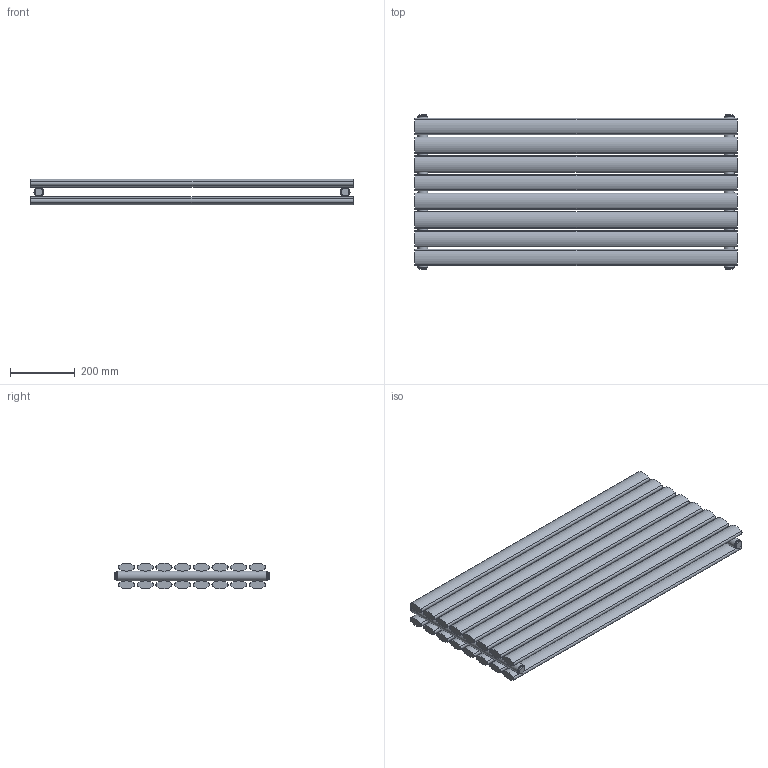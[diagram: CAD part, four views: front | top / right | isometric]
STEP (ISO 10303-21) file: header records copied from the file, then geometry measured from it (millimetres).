
FILE_DESCRIPTION(/* description */ (''),/* implementation_level */ '2;1');
FILE_NAME(/* name */ 'C:\Grzejniki\13DLUXRAD\pokojowe\FORTUNA\FORTUNA PODWÓJNA 1000x468.iam.stp',/* time_stamp */ '2016-06-28T17:31:40+02:00',/* author */ ('m.szydziak'),/* organization */ (''),/* preprocessor_version */ 'ST-DEVELOPER v16.5',/* originating_system */ 'Autodesk Inventor 2017',/* authorisation */ '');
FILE_SCHEMA (('AUTOMOTIVE_DESIGN { 1 0 10303 214 3 1 1 }'));
Length unit declared in the file: millimetre
Products named in the file (5): FORTUNA PODWÓJNA 1000x468; %%c30x1,5x468; 50x25x1,2x1000; zaślepka fi30 G0,5inch; korek
Assembly tree (26 placements, depth 2):
  FORTUNA PODWÓJNA 1000x468
    %%c30x1,5x468  x2
    50x25x1,2x1000  x16
    zaślepka fi30 G0,5inch  x4
    korek  x4
Bounding box: 1000 x 480 x 79.72 mm (x, y, z)
Volume: 15492285.7 mm3; surface area: 2135370.2 mm2
Topology: 26 solids, 26 shells, 180 faces, 388 edges, 260 vertices
Faces by surface type: plane 100, cylinder 80
Full cylindrical faces by diameter (mm): 18.631 x4, 24 x4, 27 x6, 30 x2
Entity records: 1093 total; most frequent: DIRECTION 206, CARTESIAN_POINT 158, ORIENTED_EDGE 114, AXIS2_PLACEMENT_3D 89, EDGE_CURVE 57, VERTEX_POINT 41, EDGE_LOOP 38, PRODUCT_DEFINITION_SHAPE 31
